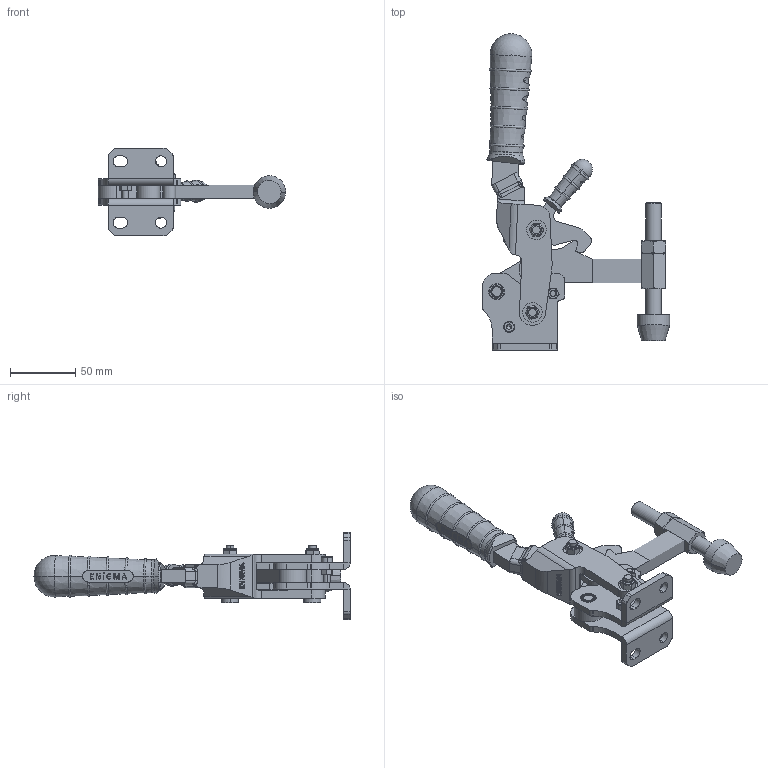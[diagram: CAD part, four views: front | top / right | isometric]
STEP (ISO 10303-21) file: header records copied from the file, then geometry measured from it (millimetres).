
FILE_DESCRIPTION (( 'STEP AP214' ), '1' );
FILE_NAME ('1563_Y.STEP', '2020-07-22T14:55:57', ( '' ), ( '' ), 'SwSTEP 2.0', 'SolidWorks 2019', '' );
FILE_SCHEMA (( 'AUTOMOTIVE_DESIGN' ));
Length unit declared in the file: millimetre
Products named in the file (22): 1563_Y; socket head cap screw 4762_din_EN ISO 4762 M5 x 25 - 22N; 1533_mafsal; C100 Tutamak; 1563_baský kolu; socket head cap screw 4762_din_EN ISO 4762 M5 x 20 - 20N; Baský M12; 1533_Cap8x20 Týrtýllý Pim; 1533_dovme mafsal; M5 Somun; Aynalama1563_Y_govde; 1533_cap5x10_on paralel burc; M12 Lama 琄 Somunu; 1563_kilit mandal; G39x6x8x30; C45 Tutamak; 1563_Y_govde; 1533_cap8x18_ara mesafe burcu; Burc_1503_12x8x5; M6 fiberli Somun; 1533_hareket kolu; M12 Somun
Assembly tree (32 placements, depth 2):
  1563_Y
    1563_Y_govde
    1533_mafsal  x2
    1533_dovme mafsal
    G39x6x8x30  x2
    M6 fiberli Somun  x2
    1533_Cap8x20 Týrtýllý Pim  x2
    1533_cap8x18_ara mesafe burcu
    Burc_1503_12x8x5  x7
    1563_baský kolu
    M5 Somun  x2
    socket head cap screw 4762_din_EN ISO 4762 M5 x 20 - 20N
    1563_kilit mandal
    1533_hareket kolu
    C100 Tutamak
    C45 Tutamak
    socket head cap screw 4762_din_EN ISO 4762 M5 x 25 - 22N
    1533_cap5x10_on paralel burc
    Aynalama1563_Y_govde
    M12 Lama 琄 Somunu
    Baský M12
    M12 Somun
Bounding box: 143.99 x 243.16 x 67 mm (x, y, z)
Volume: 238073.3 mm3; surface area: 99858.2 mm2
Topology: 32 solids, 32 shells, 1987 faces, 5113 edges, 3319 vertices
Faces by surface type: plane 1123, bspline 331, cylinder 280, cone 173, torus 76, sphere 4
Entity records: 61050 total; most frequent: CARTESIAN_POINT 24482, ORIENTED_EDGE 6980, DIRECTION 5425, EDGE_CURVE 3490, VERTEX_POINT 2265, VECTOR 1917, LINE 1917, AXIS2_PLACEMENT_3D 1754
